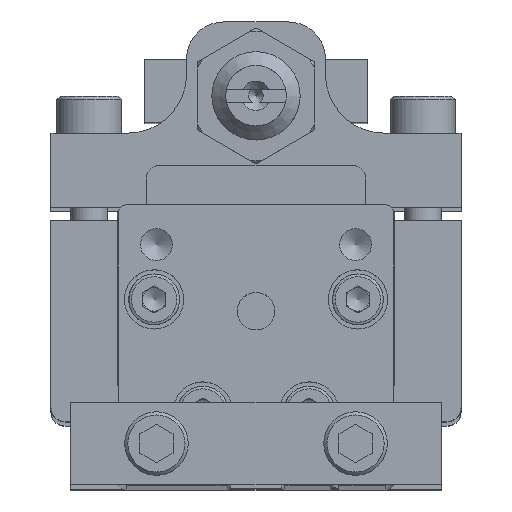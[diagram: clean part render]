
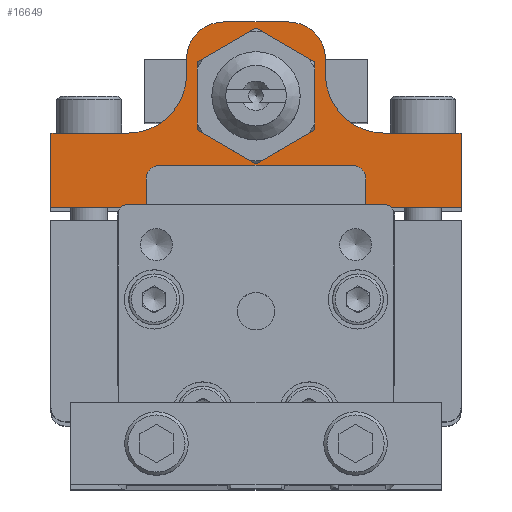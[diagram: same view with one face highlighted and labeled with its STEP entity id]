
A CAD part, top view. The second image highlights one B-rep face of the part: STEP entity #16649.
In plain terms, the highlighted planar face has unit normal (0, 0, 1).
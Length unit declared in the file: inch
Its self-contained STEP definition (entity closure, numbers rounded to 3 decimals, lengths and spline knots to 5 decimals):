
#358 = EDGE_CURVE ( 'NONE', #6791, #10863, #19856, .T. ) ;
#362 = EDGE_LOOP ( 'NONE', ( #21460, #3325, #15301, #21125, #4325, #7646, #32725, #7831, #10038, #15439, #30036, #26915 ) ) ;
#388 = DIRECTION ( 'NONE',  ( 0., 0., 1. ) ) ;
#512 = EDGE_CURVE ( 'NONE', #10863, #27196, #17831, .T. ) ;
#799 = CARTESIAN_POINT ( 'NONE',  ( -0.87154, 0.31496, 0.70866 ) ) ;
#1259 = CARTESIAN_POINT ( 'NONE',  ( 0.1378, 0.47244, 0.70866 ) ) ;
#1629 = DIRECTION ( 'NONE',  ( 1., 0., 0. ) ) ;
#1861 = ORIENTED_EDGE ( 'NONE', *, *, #18917, .F. ) ;
#2033 = DIRECTION ( 'NONE',  ( 0., 1., 0. ) ) ;
#2289 = CARTESIAN_POINT ( 'NONE',  ( -0.54528, 0.56496, 0.70866 ) ) ;
#2757 = EDGE_CURVE ( 'NONE', #19891, #28951, #24950, .T. ) ;
#3159 = LINE ( 'NONE', #799, #16919 ) ;
#3325 = ORIENTED_EDGE ( 'NONE', *, *, #21737, .T. ) ;
#3339 = VERTEX_POINT ( 'NONE', #12787 ) ;
#3972 = DIRECTION ( 'NONE',  ( 0., 1., 0. ) ) ;
#4043 = DIRECTION ( 'NONE',  ( 0., 0., 1. ) ) ;
#4325 = ORIENTED_EDGE ( 'NONE', *, *, #14135, .T. ) ;
#4608 = CARTESIAN_POINT ( 'NONE',  ( -0.1378, 0.7874, 0.70866 ) ) ;
#4805 = LINE ( 'NONE', #10007, #23849 ) ;
#5424 = FACE_OUTER_BOUND ( 'NONE', #362, .T. ) ;
#5692 = EDGE_LOOP ( 'NONE', ( #1861 ) ) ;
#6348 = DIRECTION ( 'NONE',  ( 0., 0., 1. ) ) ;
#6420 = LINE ( 'NONE', #29804, #27615 ) ;
#6567 = DIRECTION ( 'NONE',  ( 1., 0., 0. ) ) ;
#6791 = VERTEX_POINT ( 'NONE', #21159 ) ;
#7646 = ORIENTED_EDGE ( 'NONE', *, *, #32506, .T. ) ;
#7765 = CARTESIAN_POINT ( 'NONE',  ( -0.29528, 0.56496, 0.70866 ) ) ;
#7831 = ORIENTED_EDGE ( 'NONE', *, *, #16360, .T. ) ;
#8016 = EDGE_CURVE ( 'NONE', #25604, #15578, #16757, .T. ) ;
#8200 = CARTESIAN_POINT ( 'NONE',  ( 0.87154, 0.31496, 0.70866 ) ) ;
#8523 = CARTESIAN_POINT ( 'NONE',  ( 0., 0.47244, 0.70866 ) ) ;
#8962 = EDGE_CURVE ( 'NONE', #3339, #6791, #6420, .T. ) ;
#10007 = CARTESIAN_POINT ( 'NONE',  ( -0.29528, 0.56496, 0.70866 ) ) ;
#10038 = ORIENTED_EDGE ( 'NONE', *, *, #8962, .T. ) ;
#10192 = DIRECTION ( 'NONE',  ( 0., 0., -1. ) ) ;
#10253 = CARTESIAN_POINT ( 'NONE',  ( -0.87154, 0.31496, 0.70866 ) ) ;
#10283 = VERTEX_POINT ( 'NONE', #10447 ) ;
#10447 = CARTESIAN_POINT ( 'NONE',  ( -0.87154, 0.31496, 0.70866 ) ) ;
#10649 = DIRECTION ( 'NONE',  ( 1., 0., 0. ) ) ;
#10863 = VERTEX_POINT ( 'NONE', #8200 ) ;
#11226 = EDGE_CURVE ( 'NONE', #27196, #25604, #18938, .T. ) ;
#11659 = DIRECTION ( 'NONE',  ( -1., 0., 0. ) ) ;
#12071 = EDGE_CURVE ( 'NONE', #28951, #23360, #27035, .T. ) ;
#12129 = DIRECTION ( 'NONE',  ( 1., 0., 0. ) ) ;
#12539 = AXIS2_PLACEMENT_3D ( 'NONE', #14813, #4043, #16663 ) ;
#12787 = CARTESIAN_POINT ( 'NONE',  ( -0.87154, 0., 0.70866 ) ) ;
#13345 = CARTESIAN_POINT ( 'NONE',  ( -0.54528, 0.31496, 0.70866 ) ) ;
#13496 = VERTEX_POINT ( 'NONE', #7765 ) ;
#13741 = CARTESIAN_POINT ( 'NONE',  ( 0.29528, 0.56496, 0.70866 ) ) ;
#14135 = EDGE_CURVE ( 'NONE', #23360, #13496, #4805, .T. ) ;
#14813 = CARTESIAN_POINT ( 'NONE',  ( -0.1378, 0.62992, 0.70866 ) ) ;
#15301 = ORIENTED_EDGE ( 'NONE', *, *, #2757, .T. ) ;
#15305 = LINE ( 'NONE', #10253, #23204 ) ;
#15439 = ORIENTED_EDGE ( 'NONE', *, *, #358, .T. ) ;
#15578 = VERTEX_POINT ( 'NONE', #19197 ) ;
#16275 = DIRECTION ( 'NONE',  ( 1., 0., 0. ) ) ;
#16360 = EDGE_CURVE ( 'NONE', #10283, #3339, #3159, .T. ) ;
#16649 = ADVANCED_FACE ( 'NONE', ( #31018, #5424 ), #23432, .T. ) ;
#16663 = DIRECTION ( 'NONE',  ( 1., 0., 0. ) ) ;
#16727 = CARTESIAN_POINT ( 'NONE',  ( -0.29528, 0.62992, 0.70866 ) ) ;
#16757 = LINE ( 'NONE', #13741, #22744 ) ;
#16919 = VECTOR ( 'NONE', #24161, 39.37008 ) ;
#17009 = CARTESIAN_POINT ( 'NONE',  ( 0.1378, 0.62992, 0.70866 ) ) ;
#17831 = LINE ( 'NONE', #25559, #29866 ) ;
#18074 = CIRCLE ( 'NONE', #26182, 0.1378 ) ;
#18917 = EDGE_CURVE ( 'NONE', #19094, #19094, #18074, .T. ) ;
#18938 = CIRCLE ( 'NONE', #31310, 0.25 ) ;
#19094 = VERTEX_POINT ( 'NONE', #1259 ) ;
#19197 = CARTESIAN_POINT ( 'NONE',  ( 0.29528, 0.62992, 0.70866 ) ) ;
#19635 = AXIS2_PLACEMENT_3D ( 'NONE', #2289, #388, #10649 ) ;
#19856 = LINE ( 'NONE', #30463, #33143 ) ;
#19891 = VERTEX_POINT ( 'NONE', #21756 ) ;
#20611 = DIRECTION ( 'NONE',  ( 0., -1., 0. ) ) ;
#20630 = CARTESIAN_POINT ( 'NONE',  ( 0.54528, 0.56496, 0.70866 ) ) ;
#21052 = CIRCLE ( 'NONE', #29655, 0.15748 ) ;
#21125 = ORIENTED_EDGE ( 'NONE', *, *, #12071, .T. ) ;
#21159 = CARTESIAN_POINT ( 'NONE',  ( 0.87154, 0., 0.70866 ) ) ;
#21460 = ORIENTED_EDGE ( 'NONE', *, *, #8016, .T. ) ;
#21737 = EDGE_CURVE ( 'NONE', #15578, #19891, #21052, .T. ) ;
#21756 = CARTESIAN_POINT ( 'NONE',  ( 0.1378, 0.7874, 0.70866 ) ) ;
#21871 = EDGE_CURVE ( 'NONE', #23629, #10283, #15305, .T. ) ;
#22219 = DIRECTION ( 'NONE',  ( 0., 0., 1. ) ) ;
#22744 = VECTOR ( 'NONE', #3972, 39.37008 ) ;
#23204 = VECTOR ( 'NONE', #31131, 39.37008 ) ;
#23360 = VERTEX_POINT ( 'NONE', #16727 ) ;
#23432 = PLANE ( 'NONE',  #19635 ) ;
#23537 = CIRCLE ( 'NONE', #31069, 0.25 ) ;
#23629 = VERTEX_POINT ( 'NONE', #13345 ) ;
#23849 = VECTOR ( 'NONE', #20611, 39.37008 ) ;
#23972 = CARTESIAN_POINT ( 'NONE',  ( 0.54528, 0.31496, 0.70866 ) ) ;
#24161 = DIRECTION ( 'NONE',  ( 0., -1., 0. ) ) ;
#24950 = LINE ( 'NONE', #27131, #28934 ) ;
#25559 = CARTESIAN_POINT ( 'NONE',  ( 0.87154, 0.31496, 0.70866 ) ) ;
#25604 = VERTEX_POINT ( 'NONE', #30286 ) ;
#26182 = AXIS2_PLACEMENT_3D ( 'NONE', #8523, #6348, #16275 ) ;
#26915 = ORIENTED_EDGE ( 'NONE', *, *, #11226, .T. ) ;
#27035 = CIRCLE ( 'NONE', #12539, 0.15748 ) ;
#27131 = CARTESIAN_POINT ( 'NONE',  ( -0.29528, 0.7874, 0.70866 ) ) ;
#27196 = VERTEX_POINT ( 'NONE', #23972 ) ;
#27615 = VECTOR ( 'NONE', #12129, 39.37008 ) ;
#28934 = VECTOR ( 'NONE', #11659, 39.37008 ) ;
#28951 = VERTEX_POINT ( 'NONE', #4608 ) ;
#29655 = AXIS2_PLACEMENT_3D ( 'NONE', #17009, #22219, #6567 ) ;
#29804 = CARTESIAN_POINT ( 'NONE',  ( -0.87154, 0., 0.70866 ) ) ;
#29866 = VECTOR ( 'NONE', #30948, 39.37008 ) ;
#30036 = ORIENTED_EDGE ( 'NONE', *, *, #512, .T. ) ;
#30286 = CARTESIAN_POINT ( 'NONE',  ( 0.29528, 0.56496, 0.70866 ) ) ;
#30463 = CARTESIAN_POINT ( 'NONE',  ( 0.87154, 0.31496, 0.70866 ) ) ;
#30898 = DIRECTION ( 'NONE',  ( -1., 0., 0. ) ) ;
#30948 = DIRECTION ( 'NONE',  ( -1., 0., 0. ) ) ;
#31018 = FACE_BOUND ( 'NONE', #5692, .T. ) ;
#31069 = AXIS2_PLACEMENT_3D ( 'NONE', #32929, #32766, #1629 ) ;
#31131 = DIRECTION ( 'NONE',  ( -1., 0., 0. ) ) ;
#31310 = AXIS2_PLACEMENT_3D ( 'NONE', #20630, #10192, #30898 ) ;
#32506 = EDGE_CURVE ( 'NONE', #13496, #23629, #23537, .T. ) ;
#32725 = ORIENTED_EDGE ( 'NONE', *, *, #21871, .T. ) ;
#32766 = DIRECTION ( 'NONE',  ( 0., 0., -1. ) ) ;
#32929 = CARTESIAN_POINT ( 'NONE',  ( -0.54528, 0.56496, 0.70866 ) ) ;
#33143 = VECTOR ( 'NONE', #2033, 39.37008 ) ;
